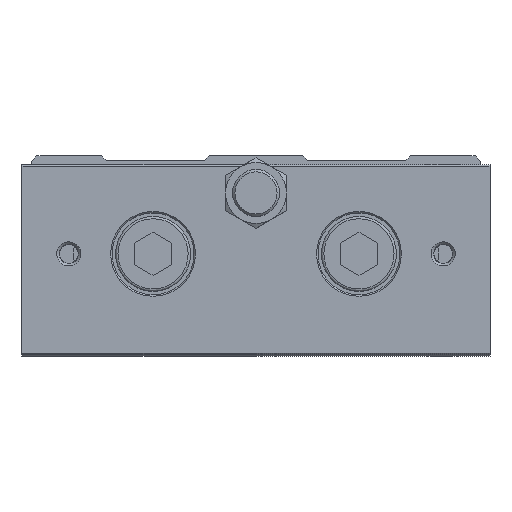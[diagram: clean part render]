
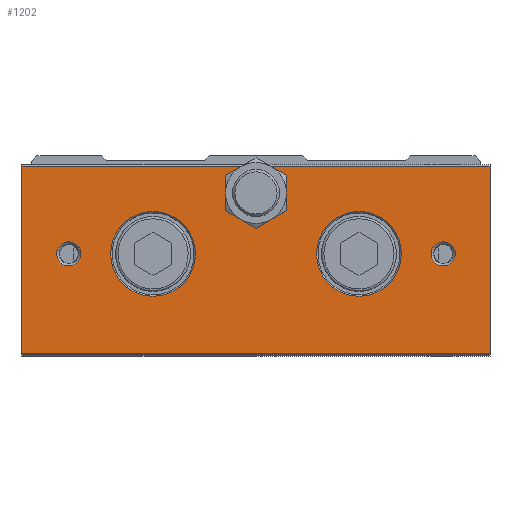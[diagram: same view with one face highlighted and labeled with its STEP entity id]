
A CAD part, top view. The second image highlights one B-rep face of the part: STEP entity #1202.
In plain terms, the highlighted planar face has unit normal (0, 0, 1).
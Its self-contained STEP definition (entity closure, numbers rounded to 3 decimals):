
#1044=CARTESIAN_POINT('',(42.567,-0.75,137.5));
#1045=VERTEX_POINT('',#1044);
#1046=CARTESIAN_POINT('',(40.0,-0.75,137.5));
#1047=DIRECTION('',(0.0,0.0,1.0));
#1048=DIRECTION('',(-1.0,0.0,0.0));
#1049=AXIS2_PLACEMENT_3D('',#1046,#1047,#1048);
#1050=CIRCLE('',#1049,2.567);
#1051=EDGE_CURVE('',#1045,#1045,#1050,.T.);
#1056=CARTESIAN_POINT('',(0.0,-22.25,137.5));
#1057=DIRECTION('',(0.0,0.0,1.0));
#1058=DIRECTION('',(1.0,0.0,0.0));
#1059=AXIS2_PLACEMENT_3D('',#1056,#1057,#1058);
#1060=PLANE('',#1059);
#1061=CARTESIAN_POINT('',(50.0,-21.95,137.5));
#1062=VERTEX_POINT('',#1061);
#1063=CARTESIAN_POINT('',(-50.0,-21.95,137.5));
#1064=VERTEX_POINT('',#1063);
#1065=CARTESIAN_POINT('',(50.0,-21.95,137.5));
#1066=DIRECTION('',(-1.0,0.0,0.0));
#1067=VECTOR('',#1066,100.0);
#1068=LINE('',#1065,#1067);
#1069=EDGE_CURVE('',#1062,#1064,#1068,.T.);
#1070=ORIENTED_EDGE('',*,*,#1069,.F.);
#1071=CARTESIAN_POINT('',(50.0,17.95,137.5));
#1072=VERTEX_POINT('',#1071);
#1073=CARTESIAN_POINT('',(50.0,-21.95,137.5));
#1074=DIRECTION('',(0.0,1.0,0.0));
#1075=VECTOR('',#1074,39.9);
#1076=LINE('',#1073,#1075);
#1077=EDGE_CURVE('',#1062,#1072,#1076,.T.);
#1078=ORIENTED_EDGE('',*,*,#1077,.T.);
#1079=CARTESIAN_POINT('',(3.124,17.95,137.5));
#1080=VERTEX_POINT('',#1079);
#1081=CARTESIAN_POINT('',(3.124,17.95,137.5));
#1082=DIRECTION('',(1.0,0.0,0.0));
#1083=VECTOR('',#1082,46.876);
#1084=LINE('',#1081,#1083);
#1085=EDGE_CURVE('',#1080,#1072,#1084,.T.);
#1086=ORIENTED_EDGE('',*,*,#1085,.F.);
#1087=CARTESIAN_POINT('',(3.25,17.879,137.5));
#1088=VERTEX_POINT('',#1087);
#1089=CARTESIAN_POINT('',(0.0,12.25,137.5));
#1090=DIRECTION('',(0.0,0.0,1.0));
#1091=DIRECTION('',(0.0,1.0,0.0));
#1092=AXIS2_PLACEMENT_3D('',#1089,#1090,#1091);
#1093=CIRCLE('',#1092,6.5);
#1094=EDGE_CURVE('',#1088,#1080,#1093,.T.);
#1095=ORIENTED_EDGE('',*,*,#1094,.F.);
#1096=CARTESIAN_POINT('',(6.5,12.25,137.5));
#1097=VERTEX_POINT('',#1096);
#1098=CARTESIAN_POINT('',(0.0,12.25,137.5));
#1099=DIRECTION('',(0.0,0.0,1.0));
#1100=DIRECTION('',(0.0,1.0,0.0));
#1101=AXIS2_PLACEMENT_3D('',#1098,#1099,#1100);
#1102=CIRCLE('',#1101,6.5);
#1103=EDGE_CURVE('',#1097,#1088,#1102,.T.);
#1104=ORIENTED_EDGE('',*,*,#1103,.F.);
#1105=CARTESIAN_POINT('',(3.25,6.621,137.5));
#1106=VERTEX_POINT('',#1105);
#1107=CARTESIAN_POINT('',(0.0,12.25,137.5));
#1108=DIRECTION('',(0.0,0.0,1.0));
#1109=DIRECTION('',(0.0,1.0,0.0));
#1110=AXIS2_PLACEMENT_3D('',#1107,#1108,#1109);
#1111=CIRCLE('',#1110,6.5);
#1112=EDGE_CURVE('',#1106,#1097,#1111,.T.);
#1113=ORIENTED_EDGE('',*,*,#1112,.F.);
#1114=CARTESIAN_POINT('',(-3.25,6.621,137.5));
#1115=VERTEX_POINT('',#1114);
#1116=CARTESIAN_POINT('',(0.0,12.25,137.5));
#1117=DIRECTION('',(0.0,0.0,1.0));
#1118=DIRECTION('',(0.0,1.0,0.0));
#1119=AXIS2_PLACEMENT_3D('',#1116,#1117,#1118);
#1120=CIRCLE('',#1119,6.5);
#1121=EDGE_CURVE('',#1115,#1106,#1120,.T.);
#1122=ORIENTED_EDGE('',*,*,#1121,.F.);
#1123=CARTESIAN_POINT('',(-6.5,12.25,137.5));
#1124=VERTEX_POINT('',#1123);
#1125=CARTESIAN_POINT('',(0.0,12.25,137.5));
#1126=DIRECTION('',(0.0,0.0,1.0));
#1127=DIRECTION('',(0.0,1.0,0.0));
#1128=AXIS2_PLACEMENT_3D('',#1125,#1126,#1127);
#1129=CIRCLE('',#1128,6.5);
#1130=EDGE_CURVE('',#1124,#1115,#1129,.T.);
#1131=ORIENTED_EDGE('',*,*,#1130,.F.);
#1132=CARTESIAN_POINT('',(-3.25,17.879,137.5));
#1133=VERTEX_POINT('',#1132);
#1134=CARTESIAN_POINT('',(0.0,12.25,137.5));
#1135=DIRECTION('',(0.0,0.0,1.0));
#1136=DIRECTION('',(0.0,1.0,0.0));
#1137=AXIS2_PLACEMENT_3D('',#1134,#1135,#1136);
#1138=CIRCLE('',#1137,6.5);
#1139=EDGE_CURVE('',#1133,#1124,#1138,.T.);
#1140=ORIENTED_EDGE('',*,*,#1139,.F.);
#1141=CARTESIAN_POINT('',(-3.124,17.95,137.5));
#1142=VERTEX_POINT('',#1141);
#1143=CARTESIAN_POINT('',(0.0,12.25,137.5));
#1144=DIRECTION('',(0.0,0.0,1.0));
#1145=DIRECTION('',(0.0,1.0,0.0));
#1146=AXIS2_PLACEMENT_3D('',#1143,#1144,#1145);
#1147=CIRCLE('',#1146,6.5);
#1148=EDGE_CURVE('',#1142,#1133,#1147,.T.);
#1149=ORIENTED_EDGE('',*,*,#1148,.F.);
#1150=CARTESIAN_POINT('',(-50.0,17.95,137.5));
#1151=VERTEX_POINT('',#1150);
#1152=CARTESIAN_POINT('',(-50.0,17.95,137.5));
#1153=DIRECTION('',(1.0,0.0,0.0));
#1154=VECTOR('',#1153,46.876);
#1155=LINE('',#1152,#1154);
#1156=EDGE_CURVE('',#1151,#1142,#1155,.T.);
#1157=ORIENTED_EDGE('',*,*,#1156,.F.);
#1158=CARTESIAN_POINT('',(-50.0,17.95,137.5));
#1159=DIRECTION('',(0.0,-1.0,0.0));
#1160=VECTOR('',#1159,39.9);
#1161=LINE('',#1158,#1160);
#1162=EDGE_CURVE('',#1151,#1064,#1161,.T.);
#1163=ORIENTED_EDGE('',*,*,#1162,.T.);
#1164=EDGE_LOOP('',(#1070,#1078,#1086,#1095,#1104,#1113,#1122,#1131,#1140,#1149,#1157,#1163));
#1165=FACE_OUTER_BOUND('',#1164,.T.);
#1166=CARTESIAN_POINT('',(-37.433,-0.75,137.5));
#1167=VERTEX_POINT('',#1166);
#1168=CARTESIAN_POINT('',(-40.0,-0.75,137.5));
#1169=DIRECTION('',(0.0,0.0,1.0));
#1170=DIRECTION('',(-1.0,0.0,0.0));
#1171=AXIS2_PLACEMENT_3D('',#1168,#1169,#1170);
#1172=CIRCLE('',#1171,2.567);
#1173=EDGE_CURVE('',#1167,#1167,#1172,.T.);
#1174=ORIENTED_EDGE('',*,*,#1173,.F.);
#1175=EDGE_LOOP('',(#1174));
#1176=FACE_BOUND('',#1175,.T.);
#1177=CARTESIAN_POINT('',(-12.95,-0.75,137.5));
#1178=VERTEX_POINT('',#1177);
#1179=CARTESIAN_POINT('',(-22.0,-0.75,137.5));
#1180=DIRECTION('',(0.0,0.0,1.0));
#1181=DIRECTION('',(-1.0,0.0,0.0));
#1182=AXIS2_PLACEMENT_3D('',#1179,#1180,#1181);
#1183=CIRCLE('',#1182,9.05);
#1184=EDGE_CURVE('',#1178,#1178,#1183,.T.);
#1185=ORIENTED_EDGE('',*,*,#1184,.F.);
#1186=EDGE_LOOP('',(#1185));
#1187=FACE_BOUND('',#1186,.T.);
#1188=CARTESIAN_POINT('',(31.05,-0.75,137.5));
#1189=VERTEX_POINT('',#1188);
#1190=CARTESIAN_POINT('',(22.0,-0.75,137.5));
#1191=DIRECTION('',(0.0,0.0,1.0));
#1192=DIRECTION('',(-1.0,0.0,0.0));
#1193=AXIS2_PLACEMENT_3D('',#1190,#1191,#1192);
#1194=CIRCLE('',#1193,9.05);
#1195=EDGE_CURVE('',#1189,#1189,#1194,.T.);
#1196=ORIENTED_EDGE('',*,*,#1195,.F.);
#1197=EDGE_LOOP('',(#1196));
#1198=FACE_BOUND('',#1197,.T.);
#1199=ORIENTED_EDGE('',*,*,#1051,.F.);
#1200=EDGE_LOOP('',(#1199));
#1201=FACE_BOUND('',#1200,.T.);
#1202=ADVANCED_FACE('',(#1165,#1176,#1187,#1198,#1201),#1060,.T.);
